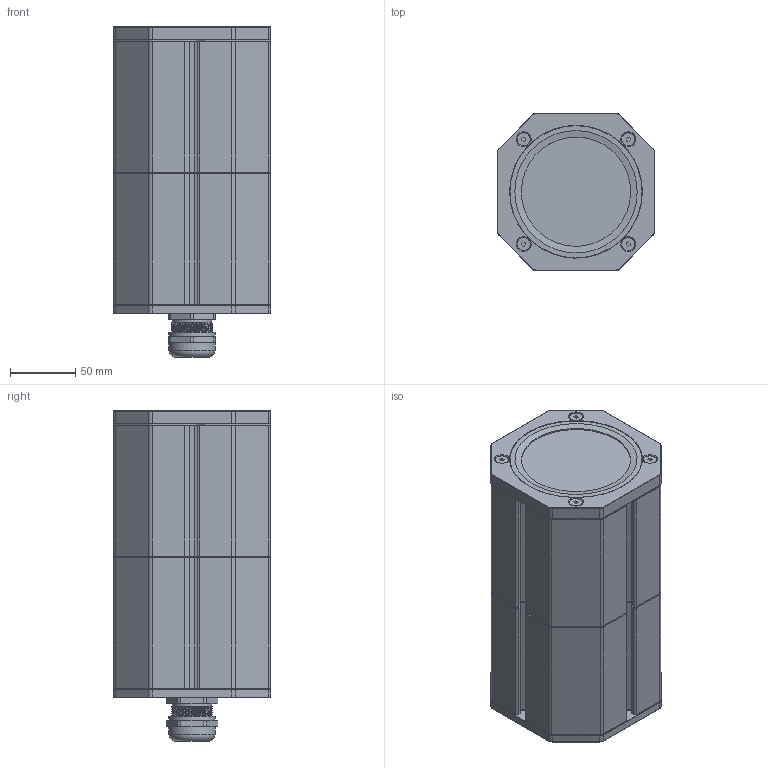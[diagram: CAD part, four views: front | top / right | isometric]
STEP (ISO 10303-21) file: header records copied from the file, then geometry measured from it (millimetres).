
FILE_DESCRIPTION(/* description */ (''),/* implementation_level */ '2;1');
FILE_NAME(/* name */ 'FG-CH87-V0-100-100-F1.1-B1.1.stp',/* time_stamp */ '2026-05-07T13:33:27+02:00',/* author */ ('roman'),/* organization */ (''),/* preprocessor_version */ 'ST-DEVELOPER v20',/* originating_system */ 'Autodesk Inventor 2024',/* authorisation */ '');
FILE_SCHEMA (('AUTOMOTIVE_DESIGN { 1 0 10303 214 3 1 1 }'));
Length unit declared in the file: millimetre
Products named in the file (16): FG-CH87-V0-100-100-F1.1-B1.1; SUB-CH87-MID-V0-100-100; CH87-BDB-V0-100; CH87-ROD-200; CH87-BDF-V0-100; SUB-CH87-BCK-V0-B1.1; CH87-CPB-V0-D32.5-RD; SKINTOP 32x1.5; Matice pruchodky M32x1,5; CH87-SL1-V0; SUB-CH87-FRT-V0-F1.1; CH87-CPF-V0-D85.5-RD; CH87-GLS; CH87-SLW; CH87-SL2-V0; DIN 7991 - M5x20
Assembly tree (26 placements, depth 3):
  FG-CH87-V0-100-100-F1.1-B1.1
    SUB-CH87-MID-V0-100-100
      CH87-BDB-V0-100
      CH87-ROD-200  x4
      CH87-SL1-V0
      CH87-BDF-V0-100
    SUB-CH87-BCK-V0-B1.1
      CH87-CPB-V0-D32.5-RD
      SKINTOP 32x1.5
      Matice pruchodky M32x1,5
    CH87-SL1-V0
    DIN 7991 - M5x20  x8
    SUB-CH87-FRT-V0-F1.1
      CH87-CPF-V0-D85.5-RD
      CH87-GLS
      CH87-SLW
    CH87-SL2-V0
Bounding box: 120 x 120 x 252.4 mm (x, y, z)
Volume: 849285.1 mm3; surface area: 478774.7 mm2
Topology: 23 solids, 23 shells, 1025 faces, 2750 edges, 1777 vertices
Faces by surface type: plane 459, cylinder 456, cone 98, torus 9, bspline 3
Full cylindrical faces by diameter (mm): 4 x4, 5 x8, 5.5 x4, 6 x8, 6.8 x20, 8.5 x4, 10 x8, 21.4 x1, 25 x1, 30 x2, 30.376 x1, 32 x6, 32.2 x1, 32.5 x1, 35.3 x2, 83 x1, 83.5 x1, 85.5 x3, 87 x5, 101 x1, 101.5 x1
Entity records: 26317 total; most frequent: CARTESIAN_POINT 5495, DIRECTION 4430, ORIENTED_EDGE 4134, EDGE_CURVE 2067, AXIS2_PLACEMENT_3D 1617, VERTEX_POINT 1340, LINE 1196, VECTOR 1196
